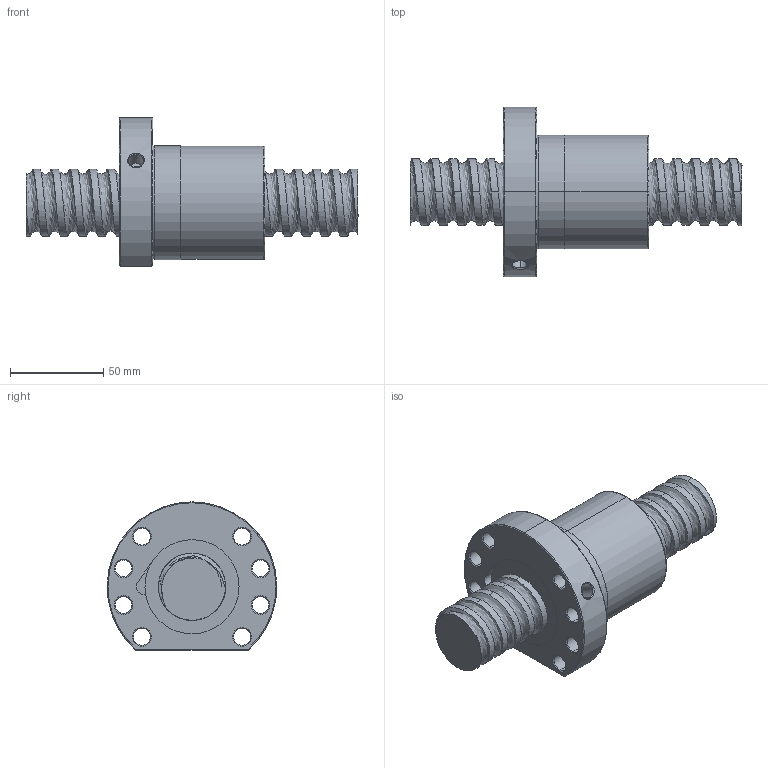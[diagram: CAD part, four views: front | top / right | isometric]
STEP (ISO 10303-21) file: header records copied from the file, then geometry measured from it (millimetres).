
FILE_DESCRIPTION (( 'STEP AP214' ), '1' );
FILE_NAME ('FSDC03610T5-F-B.STEP', '2010-06-25T12:00:38', ( 'XPAUTO' ), ( 'XPAUTO' ), 'SwSTEP 2.0', 'SolidWorks 2007', '' );
FILE_SCHEMA (( 'AUTOMOTIVE_DESIGN' ));
Length unit declared in the file: millimetre
Products named in the file (3): FSDC03610T5-F-B.sldasm-Part-1_預設; FSDC03610T5-F-B; FSDC03610T5-F-B.sldasm-Part-2_預設
Assembly tree (2 placements, depth 2):
  FSDC03610T5-F-B
    FSDC03610T5-F-B.sldasm-Part-2_預設
    FSDC03610T5-F-B.sldasm-Part-1_預設
Bounding box: 178 x 90.98 x 79.5 mm (x, y, z)
Volume: 352007.3 mm3; surface area: 64880.3 mm2
Topology: 2 solids, 2 shells, 139 faces, 346 edges, 216 vertices
Faces by surface type: cylinder 78, cone 32, plane 19, bspline 5, torus 5
Entity records: 26401 total; most frequent: CARTESIAN_POINT 23082, ORIENTED_EDGE 692, DIRECTION 650, EDGE_CURVE 346, AXIS2_PLACEMENT_3D 264, VERTEX_POINT 216, EDGE_LOOP 164, FACE_OUTER_BOUND 139
